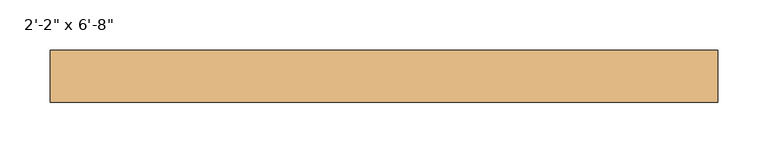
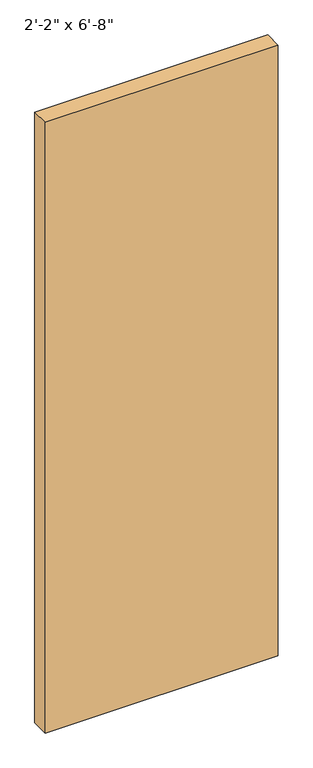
"""IFC4 building model written with IfcOpenShell, lengths in millimetres: door geometry."""

from ifc_helpers import new_model, si_unit, origin, origin_with_axes, place, context, project, spatial, polyline, outline, extrude, source, transform, mapped, element, save


def door_e4ab5b85(model_context):
    return source(origin(), model_context, "Body", "SweptSolid", [
        extrude(outline(polyline([(330.2, -152.2015625), (330.2, -203.2), (-330.2, -203.2), (-330.2, -152.2015625), (330.2, -152.2015625)])), origin_with_axes(), (0.0, 0.0, 1.0), 1828.8),
    ])


if __name__ == "__main__":
    model = new_model("IFC4")
    model_context = context("Model", 3, world=origin())
    ifc_project = project(units=[si_unit("LENGTHUNIT", "METRE", prefix="MILLI")], contexts=[model_context])
    site = spatial("IfcSite", under=ifc_project)
    building = spatial("IfcBuilding", under=site)
    placement = place(None, origin())
    door_shape = door_e4ab5b85(model_context)
    element("IfcDoor", 1, ObjectType="Planitar - Single Door_Flush Panel : 2'-2\" x 6'-8\"", at=placement, inside=building, context=model_context, shape_type="MappedRepresentation", body=[
        mapped(door_shape, transform((0.0, 0.0, 0.0), x_axis=(1.0, 0.0, 0.0), y_axis=(0.0, 1.0, 0.0), z_axis=(0.0, 0.0, 1.0))),
    ])
    save(model, "model.ifc")
